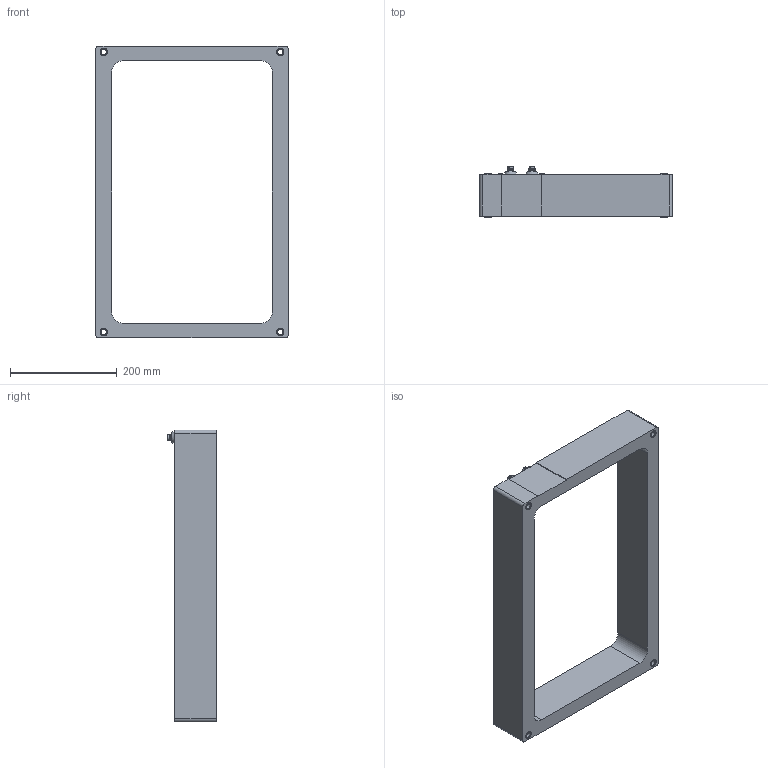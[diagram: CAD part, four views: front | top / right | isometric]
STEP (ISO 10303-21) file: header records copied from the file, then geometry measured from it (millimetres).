
FILE_DESCRIPTION(('STEP AP214'), '1');
FILE_NAME('ÒÇËÊ-ÍÒÇ-0,66-300õ490 (3D ìîäåëü)', '', ('UNSPECIFIED'), ('UNSPECIFIED'), 'C3D Converter', 'C3D Toolkit', '');
FILE_SCHEMA(('AUTOMOTIVE_DESIGN { 1 0 10303 214 3 1 1}'));
Length unit declared in the file: millimetre
Assembly tree (13 placements, depth 2):
  (unnamed)
    (unnamed)
    (unnamed)  x4
    (unnamed)  x2
    (unnamed)  x2
    (unnamed)  x2
    (unnamed)  x2
Bounding box: 360 x 93.4 x 546 mm (x, y, z)
Volume: 3858830.2 mm3; surface area: 403488.3 mm2
Topology: 13 solids, 13 shells, 378 faces, 898 edges, 594 vertices
Faces by surface type: cylinder 196, plane 164, cone 16, torus 2
Full cylindrical faces by diameter (mm): 4.92 x2, 6 x2, 6.4 x2, 9 x2, 10 x6, 12 x24, 14 x24
Entity records: 12507 total; most frequent: DIRECTION 1618, CARTESIAN_POINT 1503, ORIENTED_EDGE 1412, EDGE_CURVE 706, AXIS2_PLACEMENT_3D 621, VERTEX_POINT 490, LINE 376, VECTOR 376
